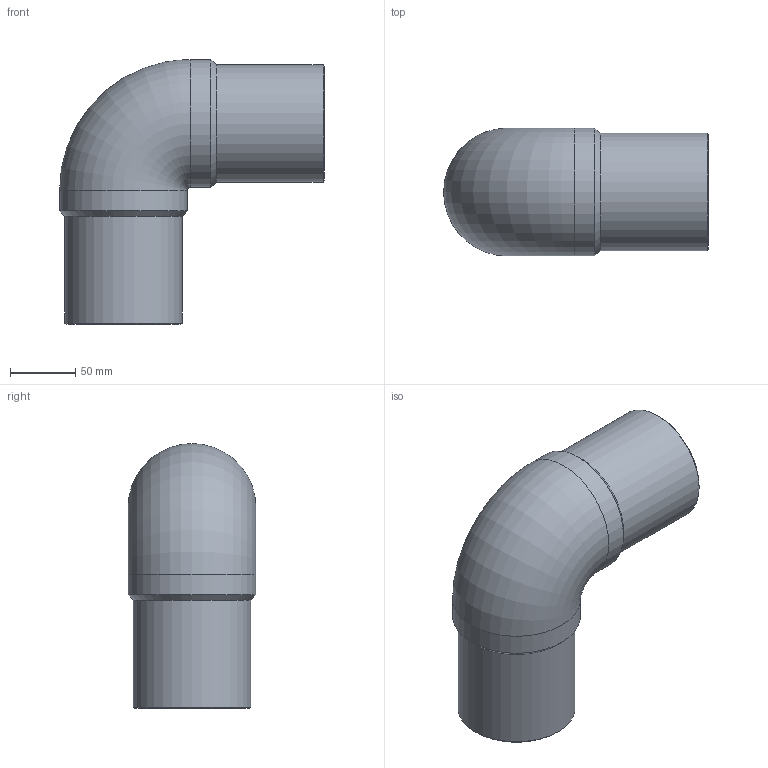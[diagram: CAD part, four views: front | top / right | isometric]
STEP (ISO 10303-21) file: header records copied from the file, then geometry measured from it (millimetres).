
FILE_DESCRIPTION(/* description */ ('Unknown'),/* implementation_level */ '2;1');
FILE_NAME(/* name */ 'G9P090G',/* time_stamp */ '2022-03-03T15:06:51+01:00',/* author */ ('Unknown'),/* organization */ ('Unknown'),/* preprocessor_version */ 'ST-DEVELOPER v18.1',/* originating_system */ 'Solid Edge',/* authorisation */ 'Unknown');
FILE_SCHEMA (('AUTOMOTIVE_DESIGN {1 0 10303 214 3 1 1}'));
Length unit declared in the file: millimetre
Products named in the file (1): G9P090G
Bounding box: 203 x 98 x 203 mm (x, y, z)
Volume: 871226.8 mm3; surface area: 152501.3 mm2
Topology: 1 solids, 1 shells, 14 faces, 34 edges, 22 vertices
Faces by surface type: cylinder 6, cone 4, plane 2, torus 2
Full cylindrical faces by diameter (mm): 69.8 x2, 90 x2, 98 x2
Entity records: 372 total; most frequent: CARTESIAN_POINT 72, DIRECTION 60, ORIENTED_EDGE 38, AXIS2_PLACEMENT_3D 30, EDGE_LOOP 27, FACE_BOUND 27, EDGE_CURVE 19, VERTEX_POINT 18
